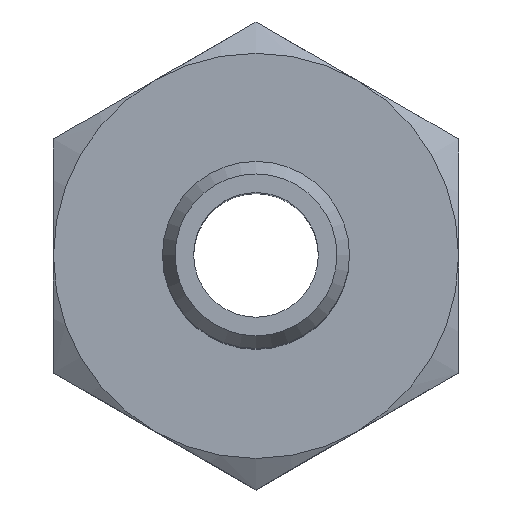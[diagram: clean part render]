
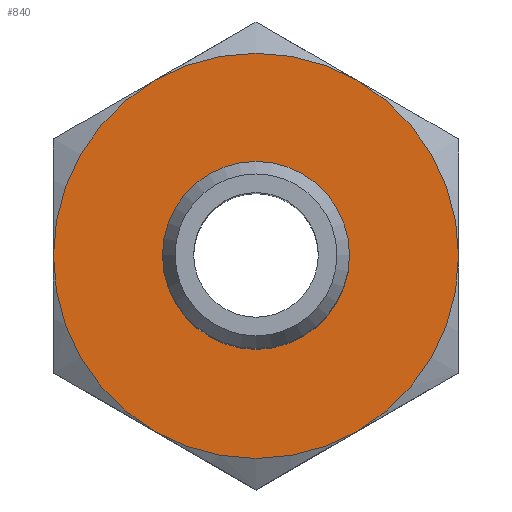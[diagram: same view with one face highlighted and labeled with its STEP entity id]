
A CAD part, top view. The second image highlights one B-rep face of the part: STEP entity #840.
In plain terms, the highlighted planar face has unit normal (0, 0, 1).
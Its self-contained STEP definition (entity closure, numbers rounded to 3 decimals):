
#840=ADVANCED_FACE('', (#850,#860), #870, .T.);
#3060=AXIS2_PLACEMENT_3D('Ax2Pl3d', #3070, #3080, #3090);
#3140=AXIS2_PLACEMENT_3D('Ax2Pl3d', #3150, #3160, #3170);
#3220=AXIS2_PLACEMENT_3D('Ax2Pl3d', #3230, #3240, #3250);
#3300=AXIS2_PLACEMENT_3D('Ax2Pl3d', #3310, #3320, #3330);
#3380=AXIS2_PLACEMENT_3D('Ax2Pl3d', #3390, #3400, #3410);
#3460=AXIS2_PLACEMENT_3D('Ax2Pl3d', #3470, #3480, #3490);
#3500=AXIS2_PLACEMENT_3D('Ax2Pl3d', #3510, #3520, #3530);
#3540=AXIS2_PLACEMENT_3D('Ax2Pl3d', #3550, #3560, #3570);
#6470=CARTESIAN_POINT('', (144.194,5.629,46.749));
#6650=CARTESIAN_POINT('', (147.444,0.,46.749));
#6660=CARTESIAN_POINT('', (137.694,5.629,46.749));
#6760=CARTESIAN_POINT('', (134.444,0.,46.749));
#6880=CARTESIAN_POINT('', (144.194,-5.629,46.749));
#6890=CARTESIAN_POINT('', (137.694,-5.629,46.749));
#3070=CARTESIAN_POINT('HicPkt', (140.944,0.,46.749));
#3150=CARTESIAN_POINT('HicPkt', (140.944,0.,46.749));
#3230=CARTESIAN_POINT('HicPkt', (140.944,0.,46.749));
#3310=CARTESIAN_POINT('HicPkt', (140.944,0.,46.749));
#3390=CARTESIAN_POINT('HicPkt', (140.944,0.,46.749));
#3470=CARTESIAN_POINT('HicPkt', (140.944,0.,46.749));
#3510=CARTESIAN_POINT('HicPkt', (147.444,0.,46.749));
#3550=CARTESIAN_POINT('HicPkt', (140.944,0.,46.749));
#6900=CARTESIAN_POINT('', (140.944,3.,46.749));
#7250=CIRCLE('Circle', #3060, 6.5);
#7260=CIRCLE('Circle', #3140, 6.5);
#7270=CIRCLE('Circle', #3220, 6.5);
#7280=CIRCLE('Circle', #3300, 6.5);
#7290=CIRCLE('Circle', #3380, 6.5);
#7300=CIRCLE('Circle', #3460, 6.5);
#7310=CIRCLE('Circle', #3540, 3.);
#3080=DIRECTION('Axis', (0.,0.,-1.));
#3090=DIRECTION('RefDirection', (-1.,-0.,0.));
#3160=DIRECTION('Axis', (0.,0.,-1.));
#3170=DIRECTION('RefDirection', (-1.,-0.,0.));
#3240=DIRECTION('Axis', (0.,0.,-1.));
#3250=DIRECTION('RefDirection', (-1.,-0.,0.));
#3320=DIRECTION('Axis', (0.,0.,-1.));
#3330=DIRECTION('RefDirection', (-1.,-0.,0.));
#3400=DIRECTION('Axis', (0.,0.,-1.));
#3410=DIRECTION('RefDirection', (-1.,-0.,0.));
#3480=DIRECTION('Axis', (0.,0.,-1.));
#3490=DIRECTION('RefDirection', (-1.,-0.,0.));
#3520=DIRECTION('Axis', (0.,0.,1.));
#3530=DIRECTION('RefDirection', (1.,0.,-0.));
#3560=DIRECTION('Axis', (0.,0.,1.));
#3570=DIRECTION('RefDirection', (1.,0.,-0.));
#10840=EDGE_CURVE('', #10380, #10050, #7250, .T.);
#10850=EDGE_CURVE('', #10050, #10350, #7260, .T.);
#10860=EDGE_CURVE('', #10350, #10790, #7270, .T.);
#10870=EDGE_CURVE('', #10790, #10820, #7280, .T.);
#10880=EDGE_CURVE('', #10820, #10550, #7290, .T.);
#10890=EDGE_CURVE('', #10550, #10380, #7300, .T.);
#10900=EDGE_CURVE('', #10910, #10910, #7310, .T.);
#12530=EDGE_LOOP('Edge_loop', (#12540,#12550,#12560,#12570,#12580,
#12590));
#12600=EDGE_LOOP('Edge_loop', (#12610));
#860=FACE_BOUND('', #12600, .T.);
#850=FACE_OUTER_BOUND('Face_outer_bound', #12530, .T.);
#12540=ORIENTED_EDGE('', *, *, #10860, .F.);
#12550=ORIENTED_EDGE('', *, *, #10850, .F.);
#12560=ORIENTED_EDGE('', *, *, #10840, .F.);
#12570=ORIENTED_EDGE('', *, *, #10890, .F.);
#12580=ORIENTED_EDGE('', *, *, #10880, .F.);
#12590=ORIENTED_EDGE('', *, *, #10870, .F.);
#12610=ORIENTED_EDGE('', *, *, #10900, .F.);
#870=PLANE('Plane', #3500);
#10050=VERTEX_POINT('', #6470);
#10350=VERTEX_POINT('', #6650);
#10380=VERTEX_POINT('', #6660);
#10550=VERTEX_POINT('', #6760);
#10790=VERTEX_POINT('', #6880);
#10820=VERTEX_POINT('', #6890);
#10910=VERTEX_POINT('', #6900);
